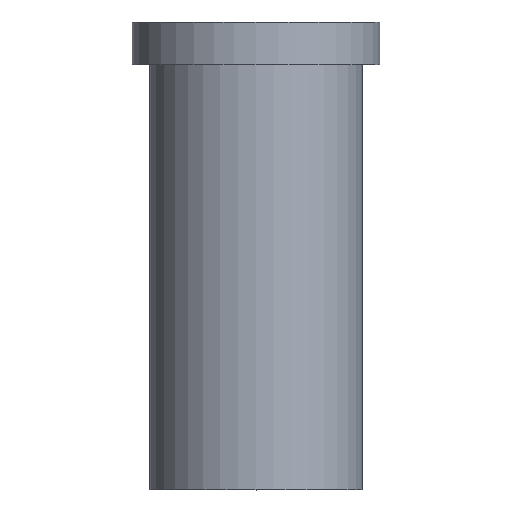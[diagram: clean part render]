
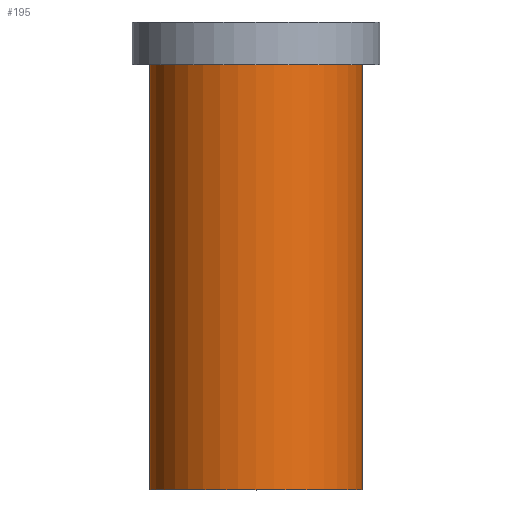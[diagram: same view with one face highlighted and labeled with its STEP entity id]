
A CAD part, top view. The second image highlights one B-rep face of the part: STEP entity #195.
In plain terms, the highlighted cylindrical face has radius 15 mm (diameter 30 mm), a full revolution.
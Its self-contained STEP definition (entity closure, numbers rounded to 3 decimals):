
#32=ORIENTED_EDGE('',*,*,#50,.T.);
#33=ORIENTED_EDGE('',*,*,#49,.F.);
#49=EDGE_CURVE('',#59,#59,#69,.T.);
#50=EDGE_CURVE('',#60,#60,#70,.T.);
#59=VERTEX_POINT('',#280);
#60=VERTEX_POINT('',#283);
#69=CIRCLE('',#213,15.);
#70=CIRCLE('',#215,15.);
#82=EDGE_LOOP('',(#32));
#83=EDGE_LOOP('',(#33));
#102=FACE_BOUND('',#82,.T.);
#103=FACE_BOUND('',#83,.T.);
#117=CYLINDRICAL_SURFACE('',#214,15.);
#195=ADVANCED_FACE('',(#102,#103),#117,.T.);
#213=AXIS2_PLACEMENT_3D('',#279,#241,#242);
#214=AXIS2_PLACEMENT_3D('',#281,#243,#244);
#215=AXIS2_PLACEMENT_3D('',#282,#245,#246);
#241=DIRECTION('',(0.,-1.,0.));
#242=DIRECTION('',(0.,0.,-1.));
#243=DIRECTION('',(0.,-1.,0.));
#244=DIRECTION('',(0.,0.,-1.));
#245=DIRECTION('',(0.,-1.,0.));
#246=DIRECTION('',(0.,0.,-1.));
#279=CARTESIAN_POINT('',(0.,0.,0.));
#280=CARTESIAN_POINT('',(0.,0.,-15.));
#281=CARTESIAN_POINT('',(0.,0.,0.));
#282=CARTESIAN_POINT('',(0.,60.,0.));
#283=CARTESIAN_POINT('',(0.,60.,-15.));
